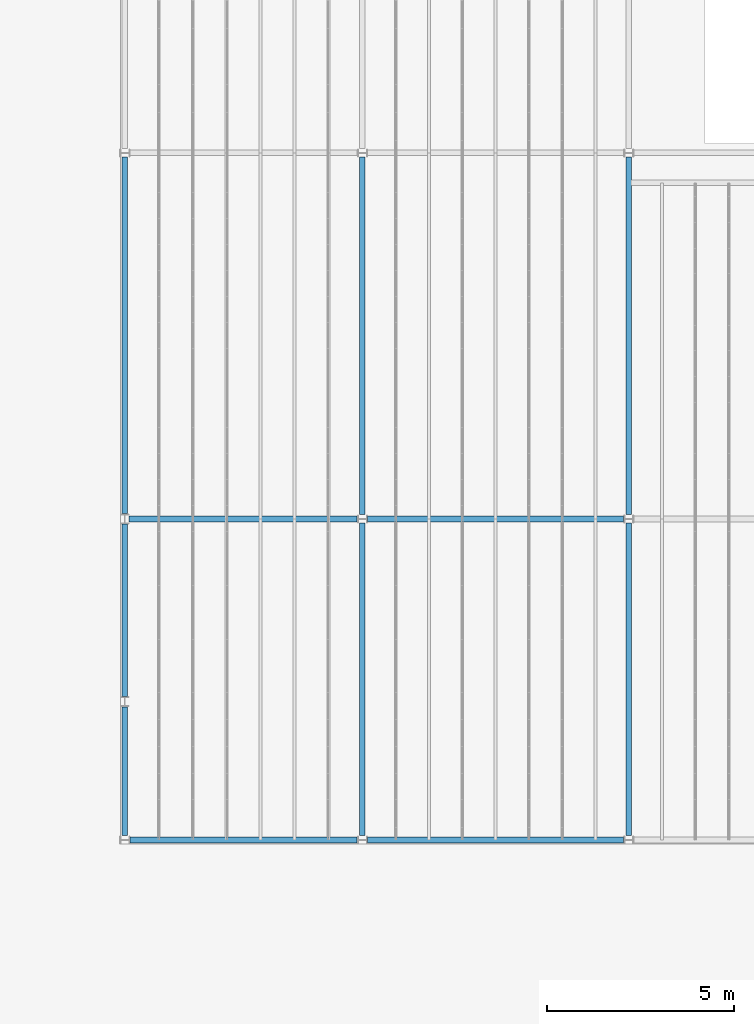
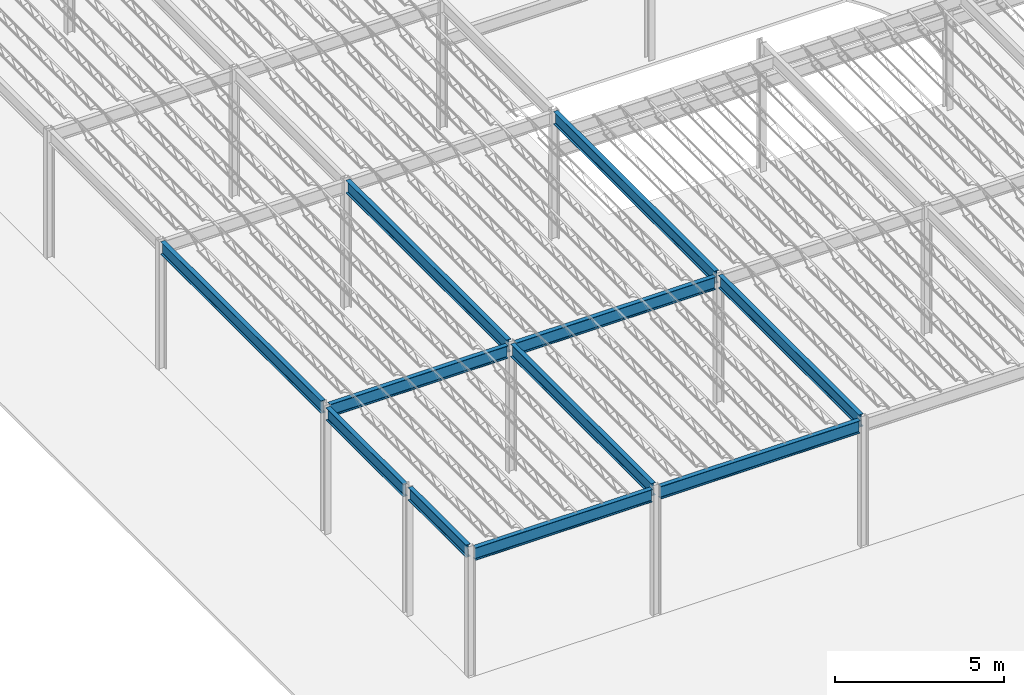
# One storey, part 8 of 119: 11 beams.
"""IFC2X3 building model written with IfcOpenShell, lengths in metres."""

from ifc_helpers import new_model, entity, si_unit, converted_unit, frame, frame_2d, origin, place, context, project, spatial, polyline, circle_curve, parameter, trimmed, segment, composite_curve, outline, extrude, material, element, save


model = new_model("IFC2X3")

# Units and contexts
model_context = context("Model", 3, precision=1e-09, world=origin())
plan_context = context("Plan", 3, precision=1e-09, world=origin())
ifc_project = project(units=[si_unit("LENGTHUNIT", "METRE"), si_unit("AREAUNIT", "SQUARE_METRE"), si_unit("VOLUMEUNIT", "CUBIC_METRE"), converted_unit("PLANEANGLEUNIT", "DEGREE", entity("IfcRatioMeasure", 0.01745329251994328), si_unit("PLANEANGLEUNIT", "RADIAN"), dimensions=[0, 0, 0, 0, 0, 0, 0]), si_unit("TIMEUNIT", "SECOND")], contexts=[model_context, plan_context])

# Site, building, storey
site_placement = place(None, origin())
site = spatial("IfcSite", under=ifc_project, at=site_placement, Name="Default", CompositionType="ELEMENT")
building_placement = place(site_placement, origin())
building = spatial("IfcBuilding", under=site, at=building_placement, CompositionType="ELEMENT")
storey_placement = place(building_placement, frame((0.0, 0.0, 4.570000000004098)))
storey = spatial("IfcBuildingStorey", under=building, at=storey_placement, Name="Second Floor", CompositionType="ELEMENT", Elevation=4.570000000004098)

# Beams
ifc_material = material(Name="Metal - Steel - 345 MPa")
beam_1_placement = place(storey_placement, frame((-33.55265752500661, 18.61000000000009, 4.61649999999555), z_axis=(0.0, 0.0, 1.0), x_axis=(0.0, 1.0, 0.0)))
element("IfcBeam", 1, at=beam_1_placement, inside=storey, material=ifc_material, Name="M_W-Wide Flange:W460X60:W460X60", ObjectType="M_W-Wide Flange:W460X60", context=model_context, shape_type="SweptSolid", body=[
    extrude(outline(composite_curve([segment(polyline([(0.2142000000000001, -0.07649999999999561), (0.2275000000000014, -0.07649999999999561)]), True, "CONTINUOUS"), segment(polyline([(0.2275000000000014, -0.07649999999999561), (0.2275000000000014, 0.07650000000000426)]), True, "CONTINUOUS"), segment(polyline([(0.2275000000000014, 0.07650000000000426), (0.2142000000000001, 0.07650000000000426)]), True, "CONTINUOUS"), segment(polyline([(0.2142000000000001, 0.07650000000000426), (0.2142000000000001, 0.0217000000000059)]), True, "CONTINUOUS"), segment(trimmed(circle_curve(frame_2d((0.1965000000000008, 0.0217000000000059), x_axis=(1.0, 0.0)), 0.0177), [parameter(269.9999999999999)], [parameter(359.9999999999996)], True, "PARAMETER"), False, "CONTINUOUS"), segment(polyline([(0.1965000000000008, 0.004000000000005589), (-0.1964999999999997, 0.004000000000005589)]), True, "CONTINUOUS"), segment(trimmed(circle_curve(frame_2d((-0.1964999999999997, 0.0217000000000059), x_axis=(0.0, -1.0)), 0.0177), [parameter(269.9999999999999)], [parameter(359.9999999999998)], True, "PARAMETER"), False, "CONTINUOUS"), segment(polyline([(-0.2142, 0.0217000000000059), (-0.2142, 0.07650000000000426)]), True, "CONTINUOUS"), segment(polyline([(-0.2142, 0.07650000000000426), (-0.2274999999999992, 0.07650000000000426)]), True, "CONTINUOUS"), segment(polyline([(-0.2274999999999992, 0.07650000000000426), (-0.2274999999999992, -0.07649999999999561)]), True, "CONTINUOUS"), segment(polyline([(-0.2274999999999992, -0.07649999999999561), (-0.2142, -0.07649999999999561)]), True, "CONTINUOUS"), segment(polyline([(-0.2142, -0.07649999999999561), (-0.2142, -0.02169999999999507)]), True, "CONTINUOUS"), segment(trimmed(circle_curve(frame_2d((-0.1964999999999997, -0.02169999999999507), x_axis=(-1.0, 0.0)), 0.0177), [parameter(269.9999999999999)], [parameter(359.9999999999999)], True, "PARAMETER"), False, "CONTINUOUS"), segment(polyline([(-0.1964999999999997, -0.003999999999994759), (0.1965000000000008, -0.003999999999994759)]), True, "CONTINUOUS"), segment(trimmed(circle_curve(frame_2d((0.1965000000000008, -0.02169999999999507), x_axis=(0.0, 1.0)), 0.0177), [parameter(269.9999999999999)], [parameter(5.088887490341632e-14)], True, "PARAMETER"), False, "CONTINUOUS"), segment(polyline([(0.2142000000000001, -0.02169999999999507), (0.2142000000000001, -0.07649999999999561)]), True, "CONTINUOUS")], self_intersect=False)), frame((0.0, 6.966142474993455, -0.2275000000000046), z_axis=(0.0, -1.0, 0.0), x_axis=(0.0, 0.0, -1.0)), (0.0, 0.0, 1.0), 6.827600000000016),
])
beam_2_placement = place(storey_placement, frame((-40.65734247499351, 10.04000000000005, 4.616499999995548), z_axis=(0.0, 0.0, 1.0), x_axis=(0.0, -1.0, 0.0)))
element("IfcBeam", 2, at=beam_2_placement, inside=storey, material=ifc_material, Name="M_W-Wide Flange:W460X60:W460X60", ObjectType="M_W-Wide Flange:W460X60", context=model_context, shape_type="SweptSolid", body=[
    extrude(outline(composite_curve([segment(polyline([(-0.07649999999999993, -0.2142), (-0.07649999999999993, -0.2275000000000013)]), True, "CONTINUOUS"), segment(polyline([(-0.07649999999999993, -0.2275000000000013), (0.07649999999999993, -0.2275000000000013)]), True, "CONTINUOUS"), segment(polyline([(0.07649999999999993, -0.2275000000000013), (0.07649999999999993, -0.2142)]), True, "CONTINUOUS"), segment(polyline([(0.07649999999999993, -0.2142), (0.02170000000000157, -0.2142)]), True, "CONTINUOUS"), segment(trimmed(circle_curve(frame_2d((0.0216999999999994, -0.1965000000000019), x_axis=(0.0, -1.0)), 0.0177), [parameter(269.9999999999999)], [parameter(359.9999999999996)], True, "PARAMETER"), False, "CONTINUOUS"), segment(polyline([(0.004000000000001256, -0.1965000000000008), (0.004000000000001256, 0.1964999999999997)]), True, "CONTINUOUS"), segment(trimmed(circle_curve(frame_2d((0.0216999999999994, 0.1964999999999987), x_axis=(-1.0, 0.0)), 0.0177), [parameter(269.9999999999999)], [parameter(359.9999999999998)], True, "PARAMETER"), False, "CONTINUOUS"), segment(polyline([(0.02170000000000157, 0.2142), (0.07649999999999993, 0.2142)]), True, "CONTINUOUS"), segment(polyline([(0.07649999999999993, 0.2142), (0.07649999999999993, 0.2274999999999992)]), True, "CONTINUOUS"), segment(polyline([(0.07649999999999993, 0.2274999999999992), (-0.07649999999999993, 0.2274999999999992)]), True, "CONTINUOUS"), segment(polyline([(-0.07649999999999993, 0.2274999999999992), (-0.07649999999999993, 0.2142)]), True, "CONTINUOUS"), segment(polyline([(-0.07649999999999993, 0.2142), (-0.0216999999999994, 0.2142)]), True, "CONTINUOUS"), segment(trimmed(circle_curve(frame_2d((-0.02170000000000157, 0.1964999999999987), x_axis=(0.0, 1.0)), 0.0177), [parameter(269.9999999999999)], [parameter(359.9999999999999)], True, "PARAMETER"), False, "CONTINUOUS"), segment(polyline([(-0.003999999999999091, 0.1964999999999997), (-0.003999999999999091, -0.1965000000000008)]), True, "CONTINUOUS"), segment(trimmed(circle_curve(frame_2d((-0.02170000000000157, -0.1965000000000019), x_axis=(1.0, 0.0)), 0.0177), [parameter(269.9999999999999)], [parameter(5.088887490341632e-14)], True, "PARAMETER"), False, "CONTINUOUS"), segment(polyline([(-0.0216999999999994, -0.2142), (-0.07649999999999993, -0.2142)]), True, "CONTINUOUS")], self_intersect=False)), frame((0.0, 0.1385424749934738, -0.2275000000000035), z_axis=(0.0, -1.0, 0.0), x_axis=(1.0, 0.0, 0.0)), (0.0, 0.0, -1.0), 6.827600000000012),
])
beam_3_placement = place(storey_placement, frame((-47.0, 13.72928224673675, 4.679999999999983), z_axis=(0.0, 0.0, 1.0), x_axis=(-1.0, 0.0, 0.0)))
element("IfcBeam", 3, at=beam_3_placement, inside=storey, material=ifc_material, Name="M_W-Wide Flange:W460X60:W460X60", ObjectType="M_W-Wide Flange:W460X60", context=model_context, shape_type="SweptSolid", body=[
    extrude(outline(composite_curve([segment(polyline([(0.2142000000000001, -0.0765000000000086), (0.2275000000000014, -0.0765000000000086)]), True, "CONTINUOUS"), segment(polyline([(0.2275000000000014, -0.0765000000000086), (0.2275000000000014, 0.07649999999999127)]), True, "CONTINUOUS"), segment(polyline([(0.2275000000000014, 0.07649999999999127), (0.2142000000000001, 0.07649999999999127)]), True, "CONTINUOUS"), segment(polyline([(0.2142000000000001, 0.07649999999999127), (0.2142000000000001, 0.02169999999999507)]), True, "CONTINUOUS"), segment(trimmed(circle_curve(frame_2d((0.1965000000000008, 0.02169999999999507), x_axis=(0.0, 1.0)), 0.0177), [parameter(180.0)], [parameter(269.9999999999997)], True, "PARAMETER"), False, "CONTINUOUS"), segment(polyline([(0.1965000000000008, 0.003999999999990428), (-0.1964999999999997, 0.003999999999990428)]), True, "CONTINUOUS"), segment(trimmed(circle_curve(frame_2d((-0.1964999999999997, 0.02169999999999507), x_axis=(0.0, 1.0)), 0.0177), [parameter(90.00000000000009)], [parameter(179.9999999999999)], True, "PARAMETER"), False, "CONTINUOUS"), segment(polyline([(-0.2142, 0.02169999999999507), (-0.2142, 0.07649999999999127)]), True, "CONTINUOUS"), segment(polyline([(-0.2142, 0.07649999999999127), (-0.2274999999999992, 0.07649999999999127)]), True, "CONTINUOUS"), segment(polyline([(-0.2274999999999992, 0.07649999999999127), (-0.2274999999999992, -0.0765000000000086)]), True, "CONTINUOUS"), segment(polyline([(-0.2274999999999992, -0.0765000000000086), (-0.2142, -0.0765000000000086)]), True, "CONTINUOUS"), segment(polyline([(-0.2142, -0.0765000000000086), (-0.2142, -0.02170000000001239)]), True, "CONTINUOUS"), segment(trimmed(circle_curve(frame_2d((-0.1964999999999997, -0.02170000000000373), x_axis=(0.0, 1.0)), 0.0177), [parameter(359.9999999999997)], [parameter(89.99999999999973)], True, "PARAMETER"), False, "CONTINUOUS"), segment(polyline([(-0.1964999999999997, -0.004000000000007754), (0.1965000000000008, -0.004000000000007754)]), True, "CONTINUOUS"), segment(trimmed(circle_curve(frame_2d((0.1965000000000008, -0.02170000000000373), x_axis=(0.0, 1.0)), 0.0177), [parameter(269.9999999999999)], [parameter(0.0)], True, "PARAMETER"), False, "CONTINUOUS"), segment(polyline([(0.2142000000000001, -0.02170000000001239), (0.2142000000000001, -0.0765000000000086)]), True, "CONTINUOUS")], self_intersect=False)), frame((0.0, 3.574582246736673, -0.2275000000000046), z_axis=(0.0, -1.0, 0.0), x_axis=(0.0, 0.0, -1.0)), (0.0, 0.0, 1.0), 3.438495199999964),
])
beam_4_placement = place(storey_placement, frame((-40.66298019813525, 18.61000000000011, 4.61649999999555), z_axis=(0.0, 0.0, 1.0), x_axis=(0.0, 1.0, 0.0)))
element("IfcBeam", 4, at=beam_4_placement, inside=storey, material=ifc_material, Name="M_W-Wide Flange:W460X60:W460X60", ObjectType="M_W-Wide Flange:W460X60", context=model_context, shape_type="SweptSolid", body=[
    extrude(outline(composite_curve([segment(polyline([(0.2142000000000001, -0.07650000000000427), (0.2275000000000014, -0.07650000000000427)]), True, "CONTINUOUS"), segment(polyline([(0.2275000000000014, -0.07650000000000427), (0.2275000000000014, 0.0764999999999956)]), True, "CONTINUOUS"), segment(polyline([(0.2275000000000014, 0.0764999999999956), (0.2142000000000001, 0.0764999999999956)]), True, "CONTINUOUS"), segment(polyline([(0.2142000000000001, 0.0764999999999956), (0.2142000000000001, 0.02169999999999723)]), True, "CONTINUOUS"), segment(trimmed(circle_curve(frame_2d((0.1965000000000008, 0.02169999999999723), x_axis=(0.0, 1.0)), 0.0177), [parameter(180.0)], [parameter(269.9999999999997)], True, "PARAMETER"), False, "CONTINUOUS"), segment(polyline([(0.1965000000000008, 0.003999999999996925), (-0.1964999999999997, 0.003999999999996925)]), True, "CONTINUOUS"), segment(trimmed(circle_curve(frame_2d((-0.1964999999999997, 0.02169999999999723), x_axis=(0.0, 1.0)), 0.0177), [parameter(90.00000000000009)], [parameter(179.9999999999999)], True, "PARAMETER"), False, "CONTINUOUS"), segment(polyline([(-0.2142, 0.02169999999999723), (-0.2142, 0.0764999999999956)]), True, "CONTINUOUS"), segment(polyline([(-0.2142, 0.0764999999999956), (-0.2274999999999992, 0.0764999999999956)]), True, "CONTINUOUS"), segment(polyline([(-0.2274999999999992, 0.0764999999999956), (-0.2274999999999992, -0.07650000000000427)]), True, "CONTINUOUS"), segment(polyline([(-0.2274999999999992, -0.07650000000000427), (-0.2142, -0.07650000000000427)]), True, "CONTINUOUS"), segment(polyline([(-0.2142, -0.07650000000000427), (-0.2142, -0.02170000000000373)]), True, "CONTINUOUS"), segment(trimmed(circle_curve(frame_2d((-0.1964999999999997, -0.02170000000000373), x_axis=(0.0, 1.0)), 0.0177), [parameter(359.9999999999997)], [parameter(89.99999999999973)], True, "PARAMETER"), False, "CONTINUOUS"), segment(polyline([(-0.1964999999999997, -0.004000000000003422), (0.1965000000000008, -0.004000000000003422)]), True, "CONTINUOUS"), segment(trimmed(circle_curve(frame_2d((0.1965000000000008, -0.02170000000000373), x_axis=(0.0, 1.0)), 0.0177), [parameter(269.9999999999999)], [parameter(0.0)], True, "PARAMETER"), False, "CONTINUOUS"), segment(polyline([(0.2142000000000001, -0.02170000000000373), (0.2142000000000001, -0.07650000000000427)]), True, "CONTINUOUS")], self_intersect=False)), frame((0.0, 6.222319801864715, -0.2275000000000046), z_axis=(0.0, -1.0, 0.0), x_axis=(0.0, 0.0, -1.0)), (0.0, 0.0, 1.0), 6.084099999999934),
])
beam_5_placement = place(storey_placement, frame((-33.55000000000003, 28.37806591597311, 4.680000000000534), z_axis=(0.0, 0.0, 1.0), x_axis=(-1.0, 0.0, 0.0)))
element("IfcBeam", 5, at=beam_5_placement, inside=storey, material=ifc_material, Name="M_W-Wide Flange:W460X60:W460X60", ObjectType="M_W-Wide Flange:W460X60", context=model_context, shape_type="SweptSolid", body=[
    extrude(outline(composite_curve([segment(polyline([(0.2142000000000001, -0.0764999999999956), (0.2275000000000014, -0.0764999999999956)]), True, "CONTINUOUS"), segment(polyline([(0.2275000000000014, -0.0764999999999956), (0.2275000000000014, 0.07650000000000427)]), True, "CONTINUOUS"), segment(polyline([(0.2275000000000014, 0.07650000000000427), (0.2142000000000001, 0.07650000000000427)]), True, "CONTINUOUS"), segment(polyline([(0.2142000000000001, 0.07650000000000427), (0.2142000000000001, 0.02170000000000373)]), True, "CONTINUOUS"), segment(trimmed(circle_curve(frame_2d((0.1965000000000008, 0.02170000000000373), x_axis=(1.0, 0.0)), 0.0177), [parameter(269.9999999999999)], [parameter(359.9999999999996)], True, "PARAMETER"), False, "CONTINUOUS"), segment(polyline([(0.1965000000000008, 0.004000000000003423), (-0.1964999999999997, 0.004000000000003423)]), True, "CONTINUOUS"), segment(trimmed(circle_curve(frame_2d((-0.1964999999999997, 0.02170000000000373), x_axis=(0.0, -1.0)), 0.0177), [parameter(269.9999999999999)], [parameter(359.9999999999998)], True, "PARAMETER"), False, "CONTINUOUS"), segment(polyline([(-0.2142, 0.02170000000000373), (-0.2142, 0.07650000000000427)]), True, "CONTINUOUS"), segment(polyline([(-0.2142, 0.07650000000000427), (-0.2274999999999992, 0.07650000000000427)]), True, "CONTINUOUS"), segment(polyline([(-0.2274999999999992, 0.07650000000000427), (-0.2274999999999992, -0.0764999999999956)]), True, "CONTINUOUS"), segment(polyline([(-0.2274999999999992, -0.0764999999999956), (-0.2142, -0.0764999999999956)]), True, "CONTINUOUS"), segment(polyline([(-0.2142, -0.0764999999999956), (-0.2142, -0.02169999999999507)]), True, "CONTINUOUS"), segment(trimmed(circle_curve(frame_2d((-0.1964999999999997, -0.02169999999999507), x_axis=(-1.0, 0.0)), 0.0177), [parameter(269.9999999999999)], [parameter(359.9999999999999)], True, "PARAMETER"), False, "CONTINUOUS"), segment(polyline([(-0.1964999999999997, -0.003999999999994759), (0.1965000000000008, -0.003999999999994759)]), True, "CONTINUOUS"), segment(trimmed(circle_curve(frame_2d((0.1965000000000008, -0.02169999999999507), x_axis=(0.0, 1.0)), 0.0177), [parameter(269.9999999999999)], [parameter(5.088887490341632e-14)], True, "PARAMETER"), False, "CONTINUOUS"), segment(polyline([(0.2142000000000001, -0.02169999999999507), (0.2142000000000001, -0.0764999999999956)]), True, "CONTINUOUS")], self_intersect=False)), frame((0.0, 9.653365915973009, -0.2275000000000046), z_axis=(0.0, -1.0, 0.0), x_axis=(0.0, 0.0, -1.0)), (0.0, 0.0, 1.0), 9.540600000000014),
])
beam_6_placement = place(storey_placement, frame((-40.66000000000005, 18.61193408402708, 4.680000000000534)))
element("IfcBeam", 6, at=beam_6_placement, inside=storey, material=ifc_material, Name="M_W-Wide Flange:W460X60:W460X60", ObjectType="M_W-Wide Flange:W460X60", context=model_context, shape_type="SweptSolid", body=[
    extrude(outline(composite_curve([segment(polyline([(-0.07649999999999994, -0.2142000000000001), (-0.07649999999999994, -0.2275000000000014)]), True, "CONTINUOUS"), segment(polyline([(-0.07649999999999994, -0.2275000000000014), (0.07649999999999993, -0.2275000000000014)]), True, "CONTINUOUS"), segment(polyline([(0.07649999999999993, -0.2275000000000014), (0.07649999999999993, -0.2142000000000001)]), True, "CONTINUOUS"), segment(polyline([(0.07649999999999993, -0.2142000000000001), (0.02170000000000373, -0.2142000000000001)]), True, "CONTINUOUS"), segment(trimmed(circle_curve(frame_2d((0.02170000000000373, -0.1965000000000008), x_axis=(0.0, -1.0)), 0.0177), [parameter(269.9999999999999)], [parameter(359.9999999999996)], True, "PARAMETER"), False, "CONTINUOUS"), segment(polyline([(0.00399999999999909, -0.1965000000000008), (0.00399999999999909, 0.1964999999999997)]), True, "CONTINUOUS"), segment(trimmed(circle_curve(frame_2d((0.02170000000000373, 0.1964999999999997), x_axis=(-1.0, 0.0)), 0.0177), [parameter(269.9999999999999)], [parameter(359.9999999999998)], True, "PARAMETER"), False, "CONTINUOUS"), segment(polyline([(0.02170000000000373, 0.2142), (0.07649999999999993, 0.2142)]), True, "CONTINUOUS"), segment(polyline([(0.07649999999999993, 0.2142), (0.07649999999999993, 0.2274999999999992)]), True, "CONTINUOUS"), segment(polyline([(0.07649999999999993, 0.2274999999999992), (-0.07649999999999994, 0.2274999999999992)]), True, "CONTINUOUS"), segment(polyline([(-0.07649999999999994, 0.2274999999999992), (-0.07649999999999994, 0.2142)]), True, "CONTINUOUS"), segment(polyline([(-0.07649999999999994, 0.2142), (-0.02170000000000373, 0.2142)]), True, "CONTINUOUS"), segment(trimmed(circle_curve(frame_2d((-0.02169999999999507, 0.1964999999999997), x_axis=(0.0, 1.0)), 0.0177), [parameter(269.9999999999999)], [parameter(359.9999999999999)], True, "PARAMETER"), False, "CONTINUOUS"), segment(polyline([(-0.003999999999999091, 0.1964999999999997), (-0.003999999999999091, -0.1965000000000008)]), True, "CONTINUOUS"), segment(trimmed(circle_curve(frame_2d((-0.02169999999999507, -0.1965000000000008), x_axis=(1.0, 0.0)), 0.0177), [parameter(269.9999999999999)], [parameter(5.088887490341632e-14)], True, "PARAMETER"), False, "CONTINUOUS"), segment(polyline([(-0.02170000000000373, -0.2142000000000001), (-0.07649999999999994, -0.2142000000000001)]), True, "CONTINUOUS")], self_intersect=False)), frame((0.0, 0.1127659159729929, -0.2275000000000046), z_axis=(0.0, -1.0, 0.0), x_axis=(1.0, 0.0, 0.0)), (0.0, 0.0, -1.0), 9.540600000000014),
])
beam_7_placement = place(storey_placement, frame((-33.55000000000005, 18.60779513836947, 4.679999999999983), z_axis=(0.0, 0.0, 1.0), x_axis=(-1.0, 0.0, 0.0)))
element("IfcBeam", 7, at=beam_7_placement, inside=storey, material=ifc_material, Name="M_W-Wide Flange:W460X60:W460X60", ObjectType="M_W-Wide Flange:W460X60", context=model_context, shape_type="SweptSolid", body=[
    extrude(outline(composite_curve([segment(polyline([(0.2142000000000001, -0.07649999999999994), (0.2275000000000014, -0.07649999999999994)]), True, "CONTINUOUS"), segment(polyline([(0.2275000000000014, -0.07649999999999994), (0.2275000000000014, 0.07649999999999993)]), True, "CONTINUOUS"), segment(polyline([(0.2275000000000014, 0.07649999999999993), (0.2142000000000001, 0.07649999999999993)]), True, "CONTINUOUS"), segment(polyline([(0.2142000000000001, 0.07649999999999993), (0.2142000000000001, 0.0216999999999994)]), True, "CONTINUOUS"), segment(trimmed(circle_curve(frame_2d((0.1965000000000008, 0.0216999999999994), x_axis=(1.0, 0.0)), 0.0177), [parameter(269.9999999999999)], [parameter(359.9999999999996)], True, "PARAMETER"), False, "CONTINUOUS"), segment(polyline([(0.1965000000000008, 0.00399999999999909), (-0.1964999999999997, 0.00399999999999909)]), True, "CONTINUOUS"), segment(trimmed(circle_curve(frame_2d((-0.1964999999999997, 0.0216999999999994), x_axis=(0.0, -1.0)), 0.0177), [parameter(269.9999999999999)], [parameter(359.9999999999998)], True, "PARAMETER"), False, "CONTINUOUS"), segment(polyline([(-0.2142, 0.0216999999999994), (-0.2142, 0.07649999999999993)]), True, "CONTINUOUS"), segment(polyline([(-0.2142, 0.07649999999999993), (-0.2274999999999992, 0.07649999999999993)]), True, "CONTINUOUS"), segment(polyline([(-0.2274999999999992, 0.07649999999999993), (-0.2274999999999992, -0.07649999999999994)]), True, "CONTINUOUS"), segment(polyline([(-0.2274999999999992, -0.07649999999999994), (-0.2142, -0.07649999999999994)]), True, "CONTINUOUS"), segment(polyline([(-0.2142, -0.07649999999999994), (-0.2142, -0.0216999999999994)]), True, "CONTINUOUS"), segment(trimmed(circle_curve(frame_2d((-0.1964999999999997, -0.0216999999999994), x_axis=(-1.0, 0.0)), 0.0177), [parameter(269.9999999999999)], [parameter(359.9999999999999)], True, "PARAMETER"), False, "CONTINUOUS"), segment(polyline([(-0.1964999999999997, -0.003999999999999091), (0.1965000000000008, -0.003999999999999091)]), True, "CONTINUOUS"), segment(trimmed(circle_curve(frame_2d((0.1965000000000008, -0.0216999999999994), x_axis=(0.0, 1.0)), 0.0177), [parameter(269.9999999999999)], [parameter(5.088887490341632e-14)], True, "PARAMETER"), False, "CONTINUOUS"), segment(polyline([(0.2142000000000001, -0.0216999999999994), (0.2142000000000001, -0.07649999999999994)]), True, "CONTINUOUS")], self_intersect=False)), frame((0.0, 8.453095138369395, -0.2275000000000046), z_axis=(0.0, -1.0, 0.0), x_axis=(0.0, 0.0, -1.0)), (0.0, 0.0, 1.0), 8.340600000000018),
])
beam_8_placement = place(storey_placement, frame((-47.0, 28.37806591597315, 4.680000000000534), z_axis=(0.0, 0.0, 1.0), x_axis=(-1.0, 0.0, 0.0)))
element("IfcBeam", 8, at=beam_8_placement, inside=storey, material=ifc_material, Name="M_W-Wide Flange:W460X60:W460X60", ObjectType="M_W-Wide Flange:W460X60", context=model_context, shape_type="SweptSolid", body=[
    extrude(outline(composite_curve([segment(polyline([(0.2142000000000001, -0.07649999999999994), (0.2275000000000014, -0.07649999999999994)]), True, "CONTINUOUS"), segment(polyline([(0.2275000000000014, -0.07649999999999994), (0.2275000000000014, 0.07649999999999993)]), True, "CONTINUOUS"), segment(polyline([(0.2275000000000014, 0.07649999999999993), (0.2142000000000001, 0.07649999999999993)]), True, "CONTINUOUS"), segment(polyline([(0.2142000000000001, 0.07649999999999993), (0.2142000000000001, 0.02170000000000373)]), True, "CONTINUOUS"), segment(trimmed(circle_curve(frame_2d((0.1965000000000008, 0.02170000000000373), x_axis=(1.0, 0.0)), 0.0177), [parameter(269.9999999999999)], [parameter(359.9999999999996)], True, "PARAMETER"), False, "CONTINUOUS"), segment(polyline([(0.1965000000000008, 0.003999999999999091), (-0.1964999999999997, 0.003999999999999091)]), True, "CONTINUOUS"), segment(trimmed(circle_curve(frame_2d((-0.1964999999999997, 0.02170000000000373), x_axis=(0.0, -1.0)), 0.0177), [parameter(269.9999999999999)], [parameter(359.9999999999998)], True, "PARAMETER"), False, "CONTINUOUS"), segment(polyline([(-0.2142, 0.02170000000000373), (-0.2142, 0.07649999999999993)]), True, "CONTINUOUS"), segment(polyline([(-0.2142, 0.07649999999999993), (-0.2274999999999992, 0.07649999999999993)]), True, "CONTINUOUS"), segment(polyline([(-0.2274999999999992, 0.07649999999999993), (-0.2274999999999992, -0.07649999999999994)]), True, "CONTINUOUS"), segment(polyline([(-0.2274999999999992, -0.07649999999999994), (-0.2142, -0.07649999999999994)]), True, "CONTINUOUS"), segment(polyline([(-0.2142, -0.07649999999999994), (-0.2142, -0.02170000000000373)]), True, "CONTINUOUS"), segment(trimmed(circle_curve(frame_2d((-0.1964999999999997, -0.02169999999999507), x_axis=(-1.0, 0.0)), 0.0177), [parameter(269.9999999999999)], [parameter(359.9999999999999)], True, "PARAMETER"), False, "CONTINUOUS"), segment(polyline([(-0.1964999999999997, -0.003999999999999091), (0.1965000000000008, -0.003999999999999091)]), True, "CONTINUOUS"), segment(trimmed(circle_curve(frame_2d((0.1965000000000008, -0.02169999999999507), x_axis=(0.0, 1.0)), 0.0177), [parameter(269.9999999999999)], [parameter(5.088887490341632e-14)], True, "PARAMETER"), False, "CONTINUOUS"), segment(polyline([(0.2142000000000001, -0.02170000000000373), (0.2142000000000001, -0.07649999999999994)]), True, "CONTINUOUS")], self_intersect=False)), frame((0.0, 9.626865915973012, -0.2275000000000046), z_axis=(0.0, -1.0, 0.0), x_axis=(0.0, 0.0, -1.0)), (0.0, 0.0, 1.0), 9.51409999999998),
])
beam_9_placement = place(storey_placement, frame((-40.66000000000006, 10.04220486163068, 4.679999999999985)))
element("IfcBeam", 9, at=beam_9_placement, inside=storey, material=ifc_material, Name="M_W-Wide Flange:W460X60:W460X60", ObjectType="M_W-Wide Flange:W460X60", context=model_context, shape_type="SweptSolid", body=[
    extrude(outline(composite_curve([segment(polyline([(-0.07649999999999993, -0.214199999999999), (-0.07649999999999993, -0.2275000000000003)]), True, "CONTINUOUS"), segment(polyline([(-0.07649999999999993, -0.2275000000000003), (0.07649999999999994, -0.2275000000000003)]), True, "CONTINUOUS"), segment(polyline([(0.07649999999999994, -0.2275000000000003), (0.07649999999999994, -0.214199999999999)]), True, "CONTINUOUS"), segment(polyline([(0.07649999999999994, -0.214199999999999), (0.02170000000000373, -0.214199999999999)]), True, "CONTINUOUS"), segment(trimmed(circle_curve(frame_2d((0.02170000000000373, -0.1964999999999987), x_axis=(0.0, -1.0)), 0.0177), [parameter(269.9999999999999)], [parameter(359.9999999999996)], True, "PARAMETER"), False, "CONTINUOUS"), segment(polyline([(0.003999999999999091, -0.1964999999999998), (0.003999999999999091, 0.1965000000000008)]), True, "CONTINUOUS"), segment(trimmed(circle_curve(frame_2d((0.02170000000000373, 0.1965000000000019), x_axis=(-1.0, 0.0)), 0.0177), [parameter(269.9999999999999)], [parameter(359.9999999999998)], True, "PARAMETER"), False, "CONTINUOUS"), segment(polyline([(0.02170000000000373, 0.2142000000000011), (0.07649999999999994, 0.2142000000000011)]), True, "CONTINUOUS"), segment(polyline([(0.07649999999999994, 0.2142000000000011), (0.07649999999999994, 0.2275000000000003)]), True, "CONTINUOUS"), segment(polyline([(0.07649999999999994, 0.2275000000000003), (-0.07649999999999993, 0.2275000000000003)]), True, "CONTINUOUS"), segment(polyline([(-0.07649999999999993, 0.2275000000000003), (-0.07649999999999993, 0.2142000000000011)]), True, "CONTINUOUS"), segment(polyline([(-0.07649999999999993, 0.2142000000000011), (-0.02170000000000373, 0.2142000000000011)]), True, "CONTINUOUS"), segment(trimmed(circle_curve(frame_2d((-0.02169999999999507, 0.1965000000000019), x_axis=(0.0, 1.0)), 0.0177), [parameter(269.9999999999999)], [parameter(359.9999999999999)], True, "PARAMETER"), False, "CONTINUOUS"), segment(polyline([(-0.00399999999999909, 0.1965000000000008), (-0.00399999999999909, -0.1964999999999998)]), True, "CONTINUOUS"), segment(trimmed(circle_curve(frame_2d((-0.02169999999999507, -0.1964999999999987), x_axis=(1.0, 0.0)), 0.0177), [parameter(269.9999999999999)], [parameter(5.088887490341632e-14)], True, "PARAMETER"), False, "CONTINUOUS"), segment(polyline([(-0.02170000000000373, -0.214199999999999), (-0.07649999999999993, -0.214199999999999)]), True, "CONTINUOUS")], self_intersect=False)), frame((0.0, 0.1124951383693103, -0.2275000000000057), z_axis=(0.0, -1.0, 0.0), x_axis=(1.0, 0.0, 0.0)), (0.0, 0.0, -1.0), 8.340600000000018),
])
beam_10_placement = place(storey_placement, frame((-46.99701980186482, 10.04000000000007, 4.616499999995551), z_axis=(0.0, 0.0, 1.0), x_axis=(0.0, -1.0, 0.0)))
element("IfcBeam", 10, at=beam_10_placement, inside=storey, material=ifc_material, Name="M_W-Wide Flange:W460X60:W460X60", ObjectType="M_W-Wide Flange:W460X60", context=model_context, shape_type="SweptSolid", body=[
    extrude(outline(composite_curve([segment(polyline([(-0.07649999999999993, -0.2142000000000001), (-0.07649999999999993, -0.2275000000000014)]), True, "CONTINUOUS"), segment(polyline([(-0.07649999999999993, -0.2275000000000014), (0.07649999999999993, -0.2275000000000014)]), True, "CONTINUOUS"), segment(polyline([(0.07649999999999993, -0.2275000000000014), (0.07649999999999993, -0.2142000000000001)]), True, "CONTINUOUS"), segment(polyline([(0.07649999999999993, -0.2142000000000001), (0.02170000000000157, -0.2142000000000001)]), True, "CONTINUOUS"), segment(trimmed(circle_curve(frame_2d((0.0216999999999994, -0.1964999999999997), x_axis=(1.0, 0.0)), 0.0177), [parameter(180.0)], [parameter(269.9999999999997)], True, "PARAMETER"), False, "CONTINUOUS"), segment(polyline([(0.004000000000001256, -0.1965000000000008), (0.004000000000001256, 0.1964999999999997)]), True, "CONTINUOUS"), segment(trimmed(circle_curve(frame_2d((0.0216999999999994, 0.1965000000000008), x_axis=(1.0, 0.0)), 0.0177), [parameter(90.00000000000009)], [parameter(179.9999999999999)], True, "PARAMETER"), False, "CONTINUOUS"), segment(polyline([(0.02170000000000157, 0.2142), (0.07649999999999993, 0.2142)]), True, "CONTINUOUS"), segment(polyline([(0.07649999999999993, 0.2142), (0.07649999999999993, 0.2274999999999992)]), True, "CONTINUOUS"), segment(polyline([(0.07649999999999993, 0.2274999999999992), (-0.07649999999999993, 0.2274999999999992)]), True, "CONTINUOUS"), segment(polyline([(-0.07649999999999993, 0.2274999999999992), (-0.07649999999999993, 0.2142)]), True, "CONTINUOUS"), segment(polyline([(-0.07649999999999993, 0.2142), (-0.0216999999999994, 0.2142)]), True, "CONTINUOUS"), segment(trimmed(circle_curve(frame_2d((-0.02170000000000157, 0.1965000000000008), x_axis=(1.0, 0.0)), 0.0177), [parameter(359.9999999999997)], [parameter(89.99999999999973)], True, "PARAMETER"), False, "CONTINUOUS"), segment(polyline([(-0.003999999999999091, 0.1964999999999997), (-0.003999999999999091, -0.1965000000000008)]), True, "CONTINUOUS"), segment(trimmed(circle_curve(frame_2d((-0.02170000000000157, -0.1964999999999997), x_axis=(1.0, 0.0)), 0.0177), [parameter(269.9999999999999)], [parameter(0.0)], True, "PARAMETER"), False, "CONTINUOUS"), segment(polyline([(-0.0216999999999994, -0.2142000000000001), (-0.07649999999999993, -0.2142000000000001)]), True, "CONTINUOUS")], self_intersect=False)), frame((0.0, 0.1382198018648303, -0.2275000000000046), z_axis=(0.0, -1.0, 0.0), x_axis=(1.0, 0.0, 0.0)), (0.0, 0.0, -1.0), 6.05759999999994),
])
beam_11_placement = place(storey_placement, frame((-47.0, 18.60612507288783, 4.61649999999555), z_axis=(0.0, 0.0, 1.0), x_axis=(-1.0, 0.0, 0.0)))
element("IfcBeam", 11, at=beam_11_placement, inside=storey, material=ifc_material, Name="M_W-Wide Flange:W460X60:W460X60", ObjectType="M_W-Wide Flange:W460X60", context=model_context, shape_type="SweptSolid", body=[
    extrude(outline(composite_curve([segment(polyline([(0.2142000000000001, -0.07649999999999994), (0.2275000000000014, -0.07649999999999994)]), True, "CONTINUOUS"), segment(polyline([(0.2275000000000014, -0.07649999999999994), (0.2275000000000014, 0.07649999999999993)]), True, "CONTINUOUS"), segment(polyline([(0.2275000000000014, 0.07649999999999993), (0.2142000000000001, 0.07649999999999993)]), True, "CONTINUOUS"), segment(polyline([(0.2142000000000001, 0.07649999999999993), (0.2142000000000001, 0.02170000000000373)]), True, "CONTINUOUS"), segment(trimmed(circle_curve(frame_2d((0.1965000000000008, 0.02170000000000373), x_axis=(1.0, 0.0)), 0.0177), [parameter(269.9999999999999)], [parameter(359.9999999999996)], True, "PARAMETER"), False, "CONTINUOUS"), segment(polyline([(0.1965000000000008, 0.003999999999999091), (-0.1964999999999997, 0.003999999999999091)]), True, "CONTINUOUS"), segment(trimmed(circle_curve(frame_2d((-0.1964999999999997, 0.02170000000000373), x_axis=(0.0, -1.0)), 0.0177), [parameter(269.9999999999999)], [parameter(359.9999999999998)], True, "PARAMETER"), False, "CONTINUOUS"), segment(polyline([(-0.2142, 0.02170000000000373), (-0.2142, 0.07649999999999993)]), True, "CONTINUOUS"), segment(polyline([(-0.2142, 0.07649999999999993), (-0.2274999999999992, 0.07649999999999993)]), True, "CONTINUOUS"), segment(polyline([(-0.2274999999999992, 0.07649999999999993), (-0.2274999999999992, -0.07649999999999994)]), True, "CONTINUOUS"), segment(polyline([(-0.2274999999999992, -0.07649999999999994), (-0.2142, -0.07649999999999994)]), True, "CONTINUOUS"), segment(polyline([(-0.2142, -0.07649999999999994), (-0.2142, -0.02170000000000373)]), True, "CONTINUOUS"), segment(trimmed(circle_curve(frame_2d((-0.1964999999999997, -0.02169999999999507), x_axis=(-1.0, 0.0)), 0.0177), [parameter(269.9999999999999)], [parameter(359.9999999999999)], True, "PARAMETER"), False, "CONTINUOUS"), segment(polyline([(-0.1964999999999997, -0.00399999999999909), (0.1965000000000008, -0.00399999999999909)]), True, "CONTINUOUS"), segment(trimmed(circle_curve(frame_2d((0.1965000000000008, -0.02169999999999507), x_axis=(0.0, 1.0)), 0.0177), [parameter(269.9999999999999)], [parameter(5.088887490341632e-14)], True, "PARAMETER"), False, "CONTINUOUS"), segment(polyline([(0.2142000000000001, -0.02170000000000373), (0.2142000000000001, -0.07649999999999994)]), True, "CONTINUOUS")], self_intersect=False)), frame((0.0, 4.7305298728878, -0.2275000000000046), z_axis=(0.0, -1.0, 0.0), x_axis=(0.0, 0.0, -1.0)), (0.0, 0.0, 1.0), 4.593204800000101),
])

save(model, "model.ifc")
